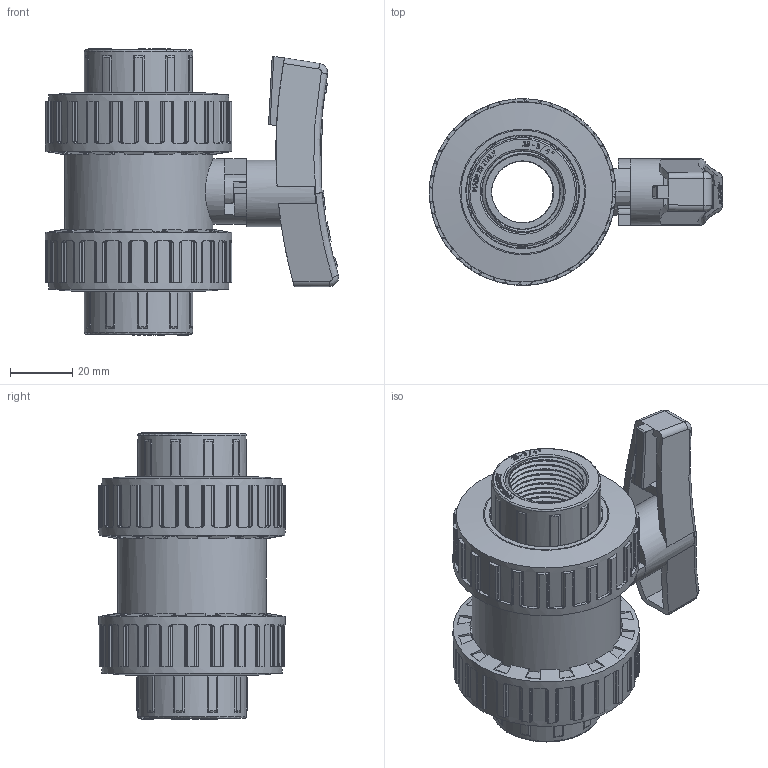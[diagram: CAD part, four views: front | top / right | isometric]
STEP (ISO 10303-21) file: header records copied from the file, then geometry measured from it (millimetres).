
FILE_DESCRIPTION(/* description */ (''),/* implementation_level */ '2;1');
FILE_NAME(/* name */ 'C:\ex desktop\VALVOLE SFERA\BV ACQUA\VALVOLE ACQUA FILETTATE\BVD41025\BVD41025.stp',/* time_stamp */ '2019-04-02T14:48:27+02:00',/* author */ ('e.sacchi'),/* organization */ (''),/* preprocessor_version */ 'ST-DEVELOPER v16.13',/* originating_system */ 'Autodesk Inventor 2018',/* authorisation */ '');
FILE_SCHEMA (('AUTOMOTIVE_DESIGN { 1 0 10303 214 3 1 1 }'));
Length unit declared in the file: millimetre
Products named in the file (12): BVD40025; corpo_BVD_40_D_25; SFERA_BVI_10_d_25; ASTA_BVD_40_d_25; supporto_BVD_40_d_25; LAV2100E; PTFE_BVI_10_d_25; LAV3100E; COLLARE_BV4_40_D25; GHIERA_BVD_40_d_25; maniglia_BVI_10_d_25; LAV3118E
Assembly tree (16 placements, depth 2):
  BVD40025
    corpo_BVD_40_D_25
    LAV2100E  x2
    PTFE_BVI_10_d_25  x2
    SFERA_BVI_10_d_25
    ASTA_BVD_40_d_25
    supporto_BVD_40_d_25
    LAV3100E  x2
    COLLARE_BV4_40_D25  x2
    GHIERA_BVD_40_d_25  x2
    maniglia_BVI_10_d_25
    LAV3118E
Bounding box: 94.51 x 60.1 x 92.3 mm (x, y, z)
Volume: 147751.1 mm3; surface area: 90436.7 mm2
Topology: 18 solids, 18 shells, 1871 faces, 5090 edges, 3346 vertices
Faces by surface type: plane 931, cylinder 454, bspline 338, torus 133, cone 14, sphere 1
Full cylindrical faces by diameter (mm): 10.156 x2, 11 x1, 12 x1, 20 x5, 21 x1, 21.4 x1, 24.5 x1, 25 x3, 26.44 x4, 29 x4, 31 x2, 34 x1, 34.155 x1, 35 x3, 36 x2, 37 x3, 38 x2, 40 x1, 47.8 x7, 58.1 x2, 60.1 x2
Entity records: 52491 total; most frequent: CARTESIAN_POINT 22972, ORIENTED_EDGE 6420, DIRECTION 5481, EDGE_CURVE 3210, VERTEX_POINT 2139, AXIS2_PLACEMENT_3D 1906, LINE 1669, VECTOR 1669
